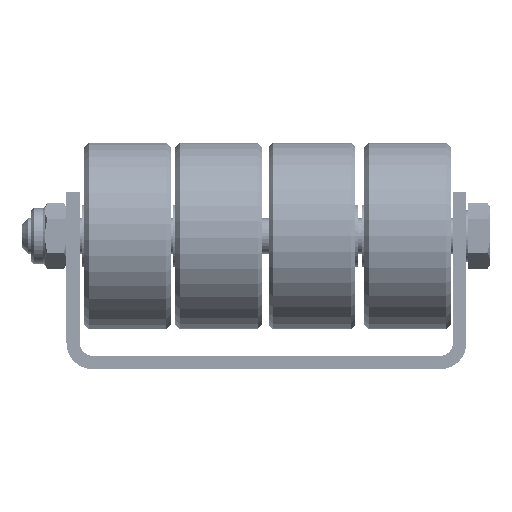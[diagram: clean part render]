
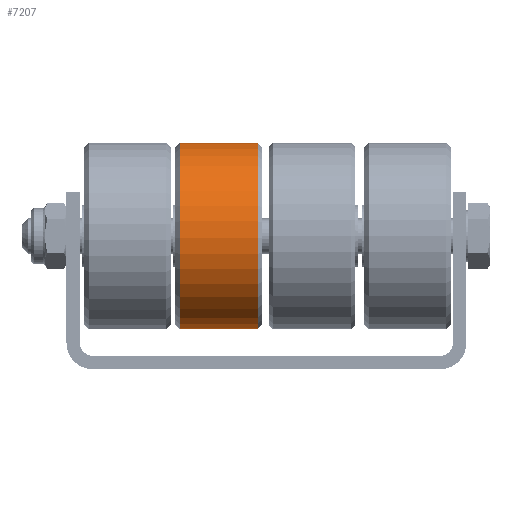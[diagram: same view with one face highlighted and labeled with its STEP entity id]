
A CAD part, front view. The second image highlights one B-rep face of the part: STEP entity #7207.
In plain terms, the highlighted cylindrical face has radius 21 mm (diameter 42 mm), a full revolution.
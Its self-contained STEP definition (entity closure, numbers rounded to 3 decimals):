
#2334=ORIENTED_EDGE('',*,*,#2864,.T.);
#2335=ORIENTED_EDGE('',*,*,#2863,.F.);
#2863=EDGE_CURVE('',#3389,#3389,#3829,.T.);
#2864=EDGE_CURVE('',#3390,#3390,#3830,.T.);
#3389=VERTEX_POINT('',#11212);
#3390=VERTEX_POINT('',#11215);
#3829=CIRCLE('',#7813,21.);
#3830=CIRCLE('',#7815,21.);
#4624=EDGE_LOOP('',(#2334));
#4625=EDGE_LOOP('',(#2335));
#5390=FACE_BOUND('',#4624,.T.);
#5391=FACE_BOUND('',#4625,.T.);
#5579=CYLINDRICAL_SURFACE('',#7885,21.);
#7207=ADVANCED_FACE('',(#5390,#5391),#5579,.T.);
#7813=AXIS2_PLACEMENT_3D('',#11211,#9325,#9326);
#7815=AXIS2_PLACEMENT_3D('',#11214,#9329,#9330);
#7885=AXIS2_PLACEMENT_3D('',#11451,#9549,#9550);
#9325=DIRECTION('',(0.,1.,0.));
#9326=DIRECTION('',(0.,0.,1.));
#9329=DIRECTION('',(0.,1.,0.));
#9330=DIRECTION('',(0.,0.,1.));
#9549=DIRECTION('',(0.,1.,0.));
#9550=DIRECTION('',(0.,0.,1.));
#11211=CARTESIAN_POINT('',(0.,8.75,0.));
#11212=CARTESIAN_POINT('',(0.,8.75,21.));
#11214=CARTESIAN_POINT('',(0.,-8.75,0.));
#11215=CARTESIAN_POINT('',(0.,-8.75,21.));
#11451=CARTESIAN_POINT('',(0.,-9.75,0.));
